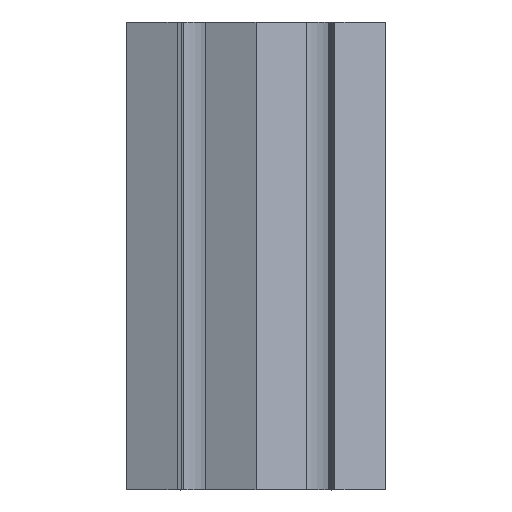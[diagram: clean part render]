
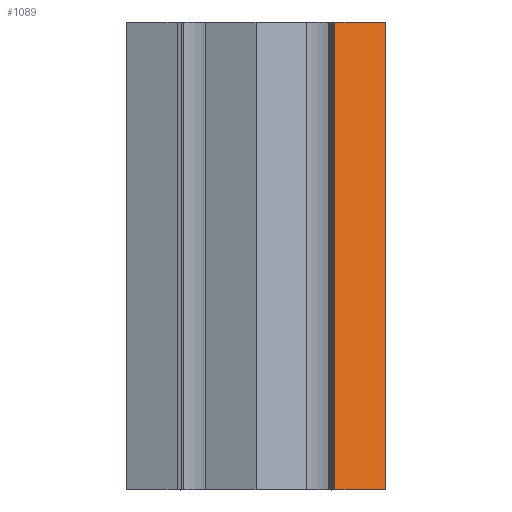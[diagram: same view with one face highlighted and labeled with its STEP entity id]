
A CAD part, top view. The second image highlights one B-rep face of the part: STEP entity #1089.
In plain terms, the highlighted planar face has unit normal (0.383, 0, 0.924).
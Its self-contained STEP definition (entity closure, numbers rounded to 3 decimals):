
#124=ORIENTED_EDGE('',*,*,#438,.T.);
#125=ORIENTED_EDGE('',*,*,#439,.F.);
#126=ORIENTED_EDGE('',*,*,#386,.F.);
#127=ORIENTED_EDGE('',*,*,#437,.T.);
#386=EDGE_CURVE('',#544,#545,#651,.T.);
#437=EDGE_CURVE('',#544,#593,#689,.T.);
#438=EDGE_CURVE('',#593,#594,#690,.T.);
#439=EDGE_CURVE('',#545,#594,#691,.T.);
#544=VERTEX_POINT('',#1557);
#545=VERTEX_POINT('',#1559);
#593=VERTEX_POINT('',#1659);
#594=VERTEX_POINT('',#1663);
#651=LINE('',#1558,#781);
#689=LINE('',#1660,#819);
#690=LINE('',#1662,#820);
#691=LINE('',#1664,#821);
#781=VECTOR('',#1252,1000.);
#819=VECTOR('',#1320,1000.);
#820=VECTOR('',#1323,1000.);
#821=VECTOR('',#1324,1000.);
#912=EDGE_LOOP('',(#124,#125,#126,#127));
#982=FACE_BOUND('',#912,.T.);
#1047=PLANE('',#1172);
#1089=ADVANCED_FACE('',(#982),#1047,.F.);
#1172=AXIS2_PLACEMENT_3D('',#1661,#1321,#1322);
#1252=DIRECTION('',(-0.924,0.,0.383));
#1320=DIRECTION('',(0.,1.,0.));
#1321=DIRECTION('',(-0.383,0.,-0.924));
#1322=DIRECTION('',(-0.924,0.,0.383));
#1323=DIRECTION('',(-0.924,0.,0.383));
#1324=DIRECTION('',(0.,1.,0.));
#1557=CARTESIAN_POINT('',(27.716,-50.,-11.481));
#1558=CARTESIAN_POINT('',(27.716,-50.,-11.481));
#1559=CARTESIAN_POINT('',(16.861,-50.,-6.984));
#1659=CARTESIAN_POINT('',(27.716,50.,-11.481));
#1660=CARTESIAN_POINT('',(27.716,-50.,-11.481));
#1661=CARTESIAN_POINT('',(27.716,-50.,-11.481));
#1662=CARTESIAN_POINT('',(27.716,50.,-11.481));
#1663=CARTESIAN_POINT('',(16.861,50.,-6.984));
#1664=CARTESIAN_POINT('',(16.861,-50.,-6.984));
